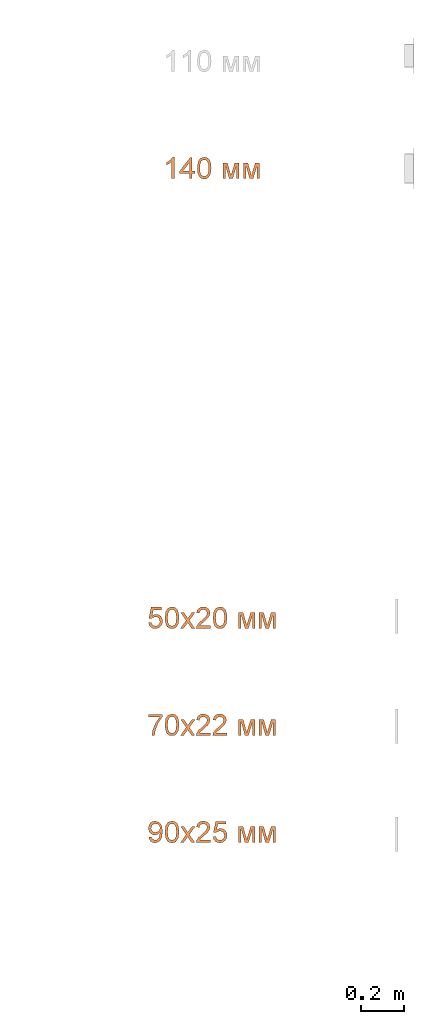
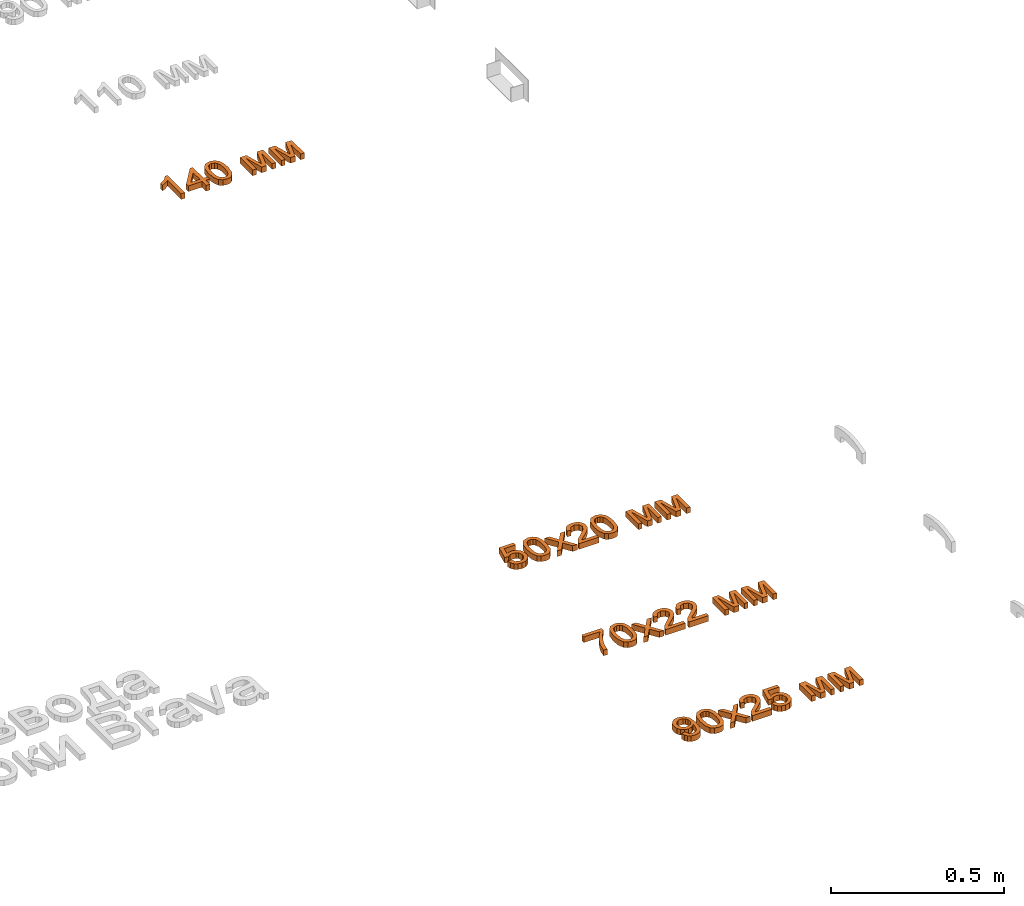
# One storey, part 33 of 87: 4 proxies.
"""IFC2X3 building model written with IfcOpenShell, lengths in millimetres."""

import ifcopenshell
import ifcopenshell.guid

model = None  # the IFC model being written
_history = None  # IfcOwnerHistory: only IFC2X3 demands one
_inside = {}  # id of a spatial element -> (the spatial element, [elements in it])
_under = {}  # id of a project, library or spatial element -> (it, [spatial elements below it])
_declared = {}  # id of a project -> (the project, [libraries it declares])
_typed = {}  # id of a type object -> (the type object, [elements of that type])
_made_of = {}  # id of a material, layer set ... -> (it, [elements and type objects made of it])


def new_model(schema):
    """Start an empty IFC model of exactly this schema.

    Asked for "IFC4X3", IfcOpenShell would pick the latest addendum, in which some entities
    have other attributes; the version numbers below select the first issue.
    IFC2X3 requires an IfcOwnerHistory on every rooted entity: one is made here for all.
    """
    global model, _history
    if schema == "IFC4X3":
        model = ifcopenshell.file(schema_version=(4, 3, 0, 0))
    else:
        model = ifcopenshell.file(schema=schema)
    _inside.clear()
    _under.clear()
    _declared.clear()
    _typed.clear()
    _made_of.clear()
    _history = None
    if model.schema == "IFC2X3":
        org = make("IfcOrganization", Name="unknown")
        user = make(
            "IfcPersonAndOrganization",
            ThePerson=make("IfcPerson", FamilyName="unknown"),
            TheOrganization=org,
        )
        app = make(
            "IfcApplication",
            ApplicationDeveloper=org,
            Version="unknown",
            ApplicationFullName="unknown",
            ApplicationIdentifier="unknown",
        )
        _history = make(
            "IfcOwnerHistory",
            OwningUser=user,
            OwningApplication=app,
            ChangeAction="ADDED",
            CreationDate=0,
        )
    return model


def make(cls, **values):
    """One entity of the class cls with the attributes given. An attribute that is None is left unset."""
    return model.create_entity(
        cls, **{name: value for name, value in values.items() if value is not None}
    )


def entity(cls, *values):
    """Any entity or typed value of the class cls, its attributes in the order of the schema. None: left unset."""
    e = model.create_entity(cls)
    for i, value in enumerate(values):
        if value is not None:
            e[i] = value
    return e


def rooted(cls, **values):
    """An entity with a GlobalId (a new one), such as an element, a storey or a relation."""
    return make(cls, GlobalId=ifcopenshell.guid.new(), OwnerHistory=_history, **values)


def si_unit(unit_type, name, prefix=None):
    """IfcSIUnit, for example si_unit("LENGTHUNIT", "METRE", prefix="MILLI")."""
    return make("IfcSIUnit", UnitType=unit_type, Prefix=prefix, Name=name)


def converted_unit(unit_type, name, factor, base, dimensions=None, offset=None):
    """IfcConversionBasedUnit, such as the inch: factor (a typed value) times the base unit."""
    return make(
        "IfcConversionBasedUnit"
        if offset is None
        else "IfcConversionBasedUnitWithOffset",
        ConversionOffset=offset,
        Dimensions=None
        if dimensions is None
        else entity("IfcDimensionalExponents", *dimensions),
        UnitType=unit_type,
        Name=name,
        ConversionFactor=make(
            "IfcMeasureWithUnit", ValueComponent=factor, UnitComponent=base
        ),
    )


def derived_unit(unit_type, elements):
    """IfcDerivedUnit: a product of units, each with its exponent."""
    return make(
        "IfcDerivedUnit",
        Elements=[
            make("IfcDerivedUnitElement", Unit=unit, Exponent=power)
            for unit, power in elements
        ],
        UnitType=unit_type,
    )


def assignment(units):
    """IfcUnitAssignment: the units of a project."""
    return None if units is None else make("IfcUnitAssignment", Units=units)


def point(xyz):
    """IfcCartesianPoint."""
    return None if xyz is None else make("IfcCartesianPoint", Coordinates=xyz)


def direction(xyz):
    """IfcDirection."""
    return None if xyz is None else make("IfcDirection", DirectionRatios=xyz)


def frame(location, z_axis=None, x_axis=None):
    """IfcAxis2Placement3D, a coordinate frame: its origin and axes. An axis left out is left unset."""
    return make(
        "IfcAxis2Placement3D",
        Location=point(location),
        Axis=direction(z_axis),
        RefDirection=direction(x_axis),
    )


def origin():
    """The frame at (0, 0, 0) with its axes left unset."""
    return frame((0.0, 0.0, 0.0))


def place(relative_to, where):
    """IfcLocalPlacement: puts the frame where relative to a parent placement (None: the world)."""
    return make(
        "IfcLocalPlacement", PlacementRelTo=relative_to, RelativePlacement=where
    )


def context(
    kind, dimensions, precision=None, world=None, true_north=None, identifier=None
):
    """IfcGeometricRepresentationContext, for example the 3D "Model" context."""
    return make(
        "IfcGeometricRepresentationContext",
        ContextIdentifier=identifier,
        ContextType=kind,
        CoordinateSpaceDimension=dimensions,
        Precision=precision,
        WorldCoordinateSystem=world,
        TrueNorth=true_north,
    )


def subcontext(parent, identifier, kind, view, scale=None):
    """IfcGeometricRepresentationSubContext, for example "Body" below "Model"."""
    return make(
        "IfcGeometricRepresentationSubContext",
        ContextIdentifier=identifier,
        ContextType=kind,
        ParentContext=parent,
        TargetScale=scale,
        TargetView=view,
    )


def project(units=None, contexts=None):
    """IfcProject with its units and contexts."""
    return rooted(
        "IfcProject",
        Name="project",
        RepresentationContexts=contexts,
        UnitsInContext=assignment(units),
    )


def spatial(cls, under=None, at=None, **own):
    """A site, building, storey or space (cls), placed at a placement, below another one or the project."""
    s = rooted(cls, ObjectPlacement=at, **own)
    if under is not None:
        _under.setdefault(under.id(), (under, []))[1].append(s)
    return s


def polyline(points):
    """IfcPolyline through the points."""
    return make("IfcPolyline", Points=[point(p) for p in points])


def outline(outer, holes=None, kind="AREA"):
    """IfcArbitraryClosedProfileDef: a profile drawn as a closed curve; with holes, ...WithVoids."""
    if holes is None:
        return make("IfcArbitraryClosedProfileDef", ProfileType=kind, OuterCurve=outer)
    return make(
        "IfcArbitraryProfileDefWithVoids",
        ProfileType=kind,
        OuterCurve=outer,
        InnerCurves=holes,
    )


def extrude(swept, where, along, depth):
    """IfcExtrudedAreaSolid: the profile swept, set in the frame where, extruded along a direction by depth."""
    return make(
        "IfcExtrudedAreaSolid",
        SweptArea=swept,
        Position=where,
        ExtrudedDirection=direction(along),
        Depth=depth,
    )


def shape(context_of_items, identifier, shape_type, items):
    """IfcShapeRepresentation: the items that make up one representation, for example the "Body"."""
    return make(
        "IfcShapeRepresentation",
        ContextOfItems=context_of_items,
        RepresentationIdentifier=identifier,
        RepresentationType=shape_type,
        Items=items,
    )


def made_of(thing, what):
    """Note that an element or type object is made of a material, layer set ...; save() writes the relation."""
    if what is not None:
        _made_of.setdefault(what.id(), (what, []))[1].append(thing)
    return thing


def element(
    cls,
    number,
    at=None,
    inside=None,
    cuts=None,
    type_object=None,
    material=None,
    context=None,
    identifier="Body",
    shape_type=None,
    held_by="IfcProductDefinitionShape",
    body=None,
    shapes=None,
    **own,
):
    """One element of the class cls, such as IfcWall. Its Tag is "e" and its number.

    at: its placement. inside: the storey or other place that contains it. cuts: it is an
    opening in that element (IfcRelVoidsElement). A single representation is given by context,
    identifier, shape_type and body (its items); several are given by shapes. held_by: the class
    of the entity that holds the representations. save() writes the other relations.
    """
    e = rooted(cls, Tag="e%d" % number, ObjectPlacement=at, **own)
    if body is not None:
        shapes = [shape(context, identifier, shape_type, body)]
    if shapes is not None:
        e.Representation = make(held_by, Representations=shapes)
    if inside is not None:
        _inside.setdefault(inside.id(), (inside, []))[1].append(e)
    if cuts is not None:
        rooted(
            "IfcRelVoidsElement", RelatingBuildingElement=cuts, RelatedOpeningElement=e
        )
    if type_object is not None:
        _typed.setdefault(type_object.id(), (type_object, []))[1].append(e)
    return made_of(e, material)


def aggregate(whole, parts):
    """IfcRelAggregates: a whole, such as a stair, and the parts it consists of."""
    return rooted("IfcRelAggregates", RelatingObject=whole, RelatedObjects=parts)


def save(model, path):
    """Write the relations noted so far, then the file.

    IfcRelAggregates (storeys below a building ...), IfcRelContainedInSpatialStructure (elements
    in a storey), IfcRelDefinesByType, IfcRelAssociatesMaterial and IfcRelDeclares: one each for
    every whole, place, type object, material and project.
    """
    for whole, parts in _under.values():
        aggregate(whole, parts)
    for where, things in _inside.values():
        rooted(
            "IfcRelContainedInSpatialStructure",
            RelatedElements=things,
            RelatingStructure=where,
        )
    for kind, things in _typed.values():
        rooted("IfcRelDefinesByType", RelatedObjects=things, RelatingType=kind)
    for what, things in _made_of.values():
        rooted("IfcRelAssociatesMaterial", RelatedObjects=things, RelatingMaterial=what)
    for by, libraries in _declared.values():
        rooted("IfcRelDeclares", RelatingContext=by, RelatedDefinitions=libraries)
    model.write(path)


model = new_model("IFC2X3")

# Units and contexts
model_context = context("Model", 3, precision=0.01, world=origin(), true_north=direction((6.12303176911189e-17, 1.0)))
body_context = subcontext(model_context, "Body", "Model", "MODEL_VIEW")
ifc_project = project(units=[si_unit("LENGTHUNIT", "METRE", prefix="MILLI"), si_unit("AREAUNIT", "SQUARE_METRE"), si_unit("VOLUMEUNIT", "CUBIC_METRE"), converted_unit("PLANEANGLEUNIT", "DEGREE", entity("IfcRatioMeasure", 0.0174532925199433), si_unit("PLANEANGLEUNIT", "RADIAN"), dimensions=[0, 0, 0, 0, 0, 0, 0]), si_unit("MASSUNIT", "GRAM", prefix="KILO"), derived_unit("MASSDENSITYUNIT", [(si_unit("MASSUNIT", "GRAM", prefix="KILO"), 1), (si_unit("LENGTHUNIT", "METRE"), -3)]), si_unit("TIMEUNIT", "SECOND"), si_unit("FREQUENCYUNIT", "HERTZ"), si_unit("THERMODYNAMICTEMPERATUREUNIT", "DEGREE_CELSIUS"), derived_unit("THERMALTRANSMITTANCEUNIT", [(si_unit("MASSUNIT", "GRAM", prefix="KILO"), 1), (si_unit("THERMODYNAMICTEMPERATUREUNIT", "KELVIN"), -1), (si_unit("TIMEUNIT", "SECOND"), -3)]), derived_unit("VOLUMETRICFLOWRATEUNIT", [(si_unit("LENGTHUNIT", "METRE"), 3), (si_unit("TIMEUNIT", "SECOND"), -1)]), si_unit("ELECTRICCURRENTUNIT", "AMPERE"), si_unit("ELECTRICVOLTAGEUNIT", "VOLT"), si_unit("POWERUNIT", "WATT"), si_unit("FORCEUNIT", "NEWTON", prefix="KILO"), si_unit("ILLUMINANCEUNIT", "LUX"), si_unit("LUMINOUSFLUXUNIT", "LUMEN"), si_unit("LUMINOUSINTENSITYUNIT", "CANDELA"), derived_unit("USERDEFINED", [(si_unit("MASSUNIT", "GRAM", prefix="KILO"), -1), (si_unit("LENGTHUNIT", "METRE"), -2), (si_unit("TIMEUNIT", "SECOND"), 3), (si_unit("LUMINOUSFLUXUNIT", "LUMEN"), 1)]), derived_unit("LINEARVELOCITYUNIT", [(si_unit("LENGTHUNIT", "METRE"), 1), (si_unit("TIMEUNIT", "SECOND"), -1)]), si_unit("PRESSUREUNIT", "PASCAL"), derived_unit("USERDEFINED", [(si_unit("LENGTHUNIT", "METRE"), -2), (si_unit("MASSUNIT", "GRAM", prefix="KILO"), 1), (si_unit("TIMEUNIT", "SECOND"), -2)])], contexts=[model_context])

# Site, building, storey
site_placement = place(None, origin())
site = spatial("IfcSite", under=ifc_project, at=site_placement, Name="Default", CompositionType="ELEMENT")
building_placement = place(site_placement, origin())
building = spatial("IfcBuilding", under=site, at=building_placement, Name="Наименование здания", CompositionType="ELEMENT")
storey_placement = place(building_placement, origin())
storey = spatial("IfcBuildingStorey", under=building, at=storey_placement, Name="Этаж 01", CompositionType="ELEMENT", Elevation=0.0)

# Proxies
proxy_1_placement = place(storey_placement, origin())
element("IfcBuildingElementProxy", 1, at=proxy_1_placement, inside=storey, Name="Текст модели:100 мм Arial", ObjectType="Текст модели:100 мм Arial", context=body_context, shape_type="SweptSolid", body=[
    extrude(outline(polyline([(-63.8793021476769, -16.9184842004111), (36.5770080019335, -16.9184842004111), (36.5770080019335, -8.82508030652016), (23.2106288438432, 2.34626961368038), (11.462930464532, 20.7526321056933), (-0.407395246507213, 20.7526321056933), (5.93243780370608, 7.53340574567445), (14.405986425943, -4.3614454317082), (-63.8793021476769, -4.3614454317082), (-63.8793021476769, -16.9184842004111)])), frame((11893.7741888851, -33062.5695836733, 0.0), z_axis=(0.0, 0.0, 1.0), x_axis=(0.0, 1.0, 0.0)), (0.0, 0.0, 1.0), 20.0),
    extrude(outline(polyline([(-1.14154897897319, -36.3868737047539), (11.4154897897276, -36.3868737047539), (11.4154897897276, -12.8424260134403), (23.9725285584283, -12.8424260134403), (23.9725285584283, -0.285387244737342), (11.4154897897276, -0.285387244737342), (11.4154897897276, 62.4998065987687), (1.99771071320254, 62.4998065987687), (-46.6608145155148, -0.285387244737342), (-46.6608145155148, -12.8424260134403), (-1.14154897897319, -12.8424260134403), (-1.14154897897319, -36.3868737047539)]), holes=[polyline([(-1.14154897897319, -0.285387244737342), (-31.20977071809, -0.285387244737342), (-1.14154897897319, 38.5139005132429), (-1.14154897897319, -0.285387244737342)])]), frame((11982.4675651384, -33090.0620121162, 0.0)), (0.0, 0.0, 1.0), 20.0),
    extrude(outline(polyline([(-7.02884310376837, -33.3490673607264), (17.5323805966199, -33.3490673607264), (35.1984171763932, -27.6137612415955), (43.3439841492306, -18.4876517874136), (47.0516941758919, -5.75150665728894), (46.7162020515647, 4.48638208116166), (43.4465778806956, 13.0955287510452), (27.94443056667, 25.6659118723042), (-0.314338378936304, 32.2325535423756), (-24.0296505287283, 32.3678288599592), (-39.4143020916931, 28.0260881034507), (-49.7293680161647, 18.9002174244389), (-54.443671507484, 4.63998875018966), (-50.8676582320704, -14.1301059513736), (-35.4058547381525, -26.7333390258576), (-7.02884310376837, -33.3490673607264)]), holes=[polyline([(-5.77428774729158, -20.8548320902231), (-25.0157644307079, -17.3562860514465), (-36.7257089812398, -11.5717922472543), (-41.0962588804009, -4.7759968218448), (-41.966921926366, 3.2146479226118), (-39.2244253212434, 11.2791292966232), (-32.8654063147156, 17.2229259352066), (-20.9698370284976, 20.2947501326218), (-1.61768958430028, 19.743314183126), (17.8514140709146, 16.2707701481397), (28.7803640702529, 10.714159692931), (33.5546988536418, 3.6181595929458), (34.5599568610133, -4.47255337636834), (31.9421230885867, -12.1923199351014), (25.847182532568, -18.1754808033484), (14.0250679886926, -21.4027476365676), (-5.77428774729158, -20.8548320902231)])]), frame((12051.3190401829, -33080.6257088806, 0.0), z_axis=(0.0, 0.0, 1.0), x_axis=(0.101851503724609, -0.994799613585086, 0.0)), (0.0, 0.0, 1.0), 20.0),
    extrude(outline(polyline([(-40.5839870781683, -38.4502715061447), (33.1886156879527, -38.4502715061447), (33.1886156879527, -25.893232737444), (-29.0570178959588, -25.893232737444), (33.1886156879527, -8.6273044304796), (33.1886156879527, 7.85380895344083), (-26.2120637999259, 25.9045521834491), (33.1886156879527, 25.9045521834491), (33.1886156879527, 38.4615909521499), (-40.5839870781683, 38.4615909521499), (-40.5839870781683, 17.7620973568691), (18.4733358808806, -0.190544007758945), (-40.5839870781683, -16.8433356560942), (-40.5839870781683, -38.4502715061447)])), frame((12175.1696424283, -33093.260270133, 0.0), z_axis=(0.0, 0.0, 1.0), x_axis=(0.0, -1.0, 0.0)), (0.0, 0.0, 1.0), 20.0),
    extrude(outline(polyline([(-40.5839870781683, -38.4502715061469), (33.1886156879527, -38.4502715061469), (33.1886156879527, -25.8932327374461), (-29.0570178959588, -25.8932327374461), (33.1886156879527, -8.62730443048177), (33.1886156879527, 7.85380895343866), (-26.2120637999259, 25.904552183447), (33.1886156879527, 25.904552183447), (33.1886156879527, 38.4615909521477), (-40.5839870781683, 38.4615909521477), (-40.5839870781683, 17.762097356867), (18.4733358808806, -0.19054400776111), (-40.5839870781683, -16.8433356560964), (-40.5839870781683, -38.4502715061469)])), frame((12270.9170630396, -33093.260270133, 0.0), z_axis=(0.0, 0.0, 1.0), x_axis=(0.0, -1.0, 0.0)), (0.0, 0.0, 1.0), 20.0),
])
proxy_2_placement = place(storey_placement, origin())
element("IfcBuildingElementProxy", 2, at=proxy_2_placement, inside=storey, Name="Текст модели:100 мм Arial", ObjectType="Текст модели:100 мм Arial", context=body_context, shape_type="SweptSolid", body=[
    extrude(outline(polyline([(3.81439562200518, -37.2548959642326), (15.7323946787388, -37.2548959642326), (26.1588137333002, -33.0579698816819), (34.2921694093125, -25.053720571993), (39.330978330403, -13.6317508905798), (40.2219288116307, 1.43409098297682), (34.3991305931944, 14.6815107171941), (25.5350217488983, 23.1481891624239), (13.9054384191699, 28.277097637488), (0.912111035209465, 29.4702838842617), (-10.715925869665, 25.7768606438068), (-19.7427074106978, 18.0989984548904), (-24.9322687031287, 7.33886785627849), (-25.5937300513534, -2.21124798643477), (-22.6370240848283, -12.2793380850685), (-47.9924930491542, 0.0204883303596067), (-38.097708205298, 37.232406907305), (-50.2330599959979, 40.4592412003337), (-62.7370428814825, -6.56524698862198), (-15.5021967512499, -30.4943712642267), (-10.7584434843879, -18.7623737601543), (-14.4216298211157, -10.4922324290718), (-13.6981616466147, 0.722667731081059), (-9.98738154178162, 9.35727561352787), (-4.32553373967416, 14.6878856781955), (11.4370636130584, 15.9400687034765), (19.7481682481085, 12.2772427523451), (25.4355726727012, 6.40632241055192), (28.0665145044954, -1.27212018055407), (27.2082313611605, -10.3575128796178), (19.6530635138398, -21.9256319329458), (5.52431094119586, -24.7161898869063), (3.81439562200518, -37.2548959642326)])), frame((11824.8547863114, -35186.5053317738, 0.0), z_axis=(0.0, 0.0, 1.0), x_axis=(0.256974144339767, -0.966418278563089, 0.0)), (0.0, 0.0, 1.0), 20.0),
    extrude(outline(polyline([(-7.02884310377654, -33.3490673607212), (17.5323805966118, -33.3490673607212), (35.198417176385, -27.6137612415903), (43.3439841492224, -18.4876517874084), (47.0516941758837, -5.75150665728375), (46.7162020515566, 4.48638208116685), (43.4465778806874, 13.0955287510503), (27.9444305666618, 25.6659118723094), (-0.314338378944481, 32.2325535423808), (-24.0296505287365, 32.3678288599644), (-39.4143020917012, 28.0260881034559), (-49.7293680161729, 18.900217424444), (-54.4436715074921, 4.63998875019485), (-50.8676582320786, -14.1301059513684), (-35.4058547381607, -26.7333390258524), (-7.02884310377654, -33.3490673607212)]), holes=[polyline([(-5.77428774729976, -20.8548320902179), (-25.0157644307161, -17.3562860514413), (-36.7257089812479, -11.5717922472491), (-41.0962588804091, -4.77599682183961), (-41.9669219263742, 3.21464792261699), (-39.2244253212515, 11.2791292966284), (-32.8654063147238, 17.2229259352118), (-20.9698370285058, 20.294750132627), (-1.61768958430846, 19.7433141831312), (17.8514140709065, 16.2707701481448), (28.7803640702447, 10.7141596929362), (33.5546988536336, 3.61815959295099), (34.5599568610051, -4.47255337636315), (31.9421230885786, -12.1923199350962), (25.8471825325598, -18.1754808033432), (14.0250679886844, -21.4027476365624), (-5.77428774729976, -20.8548320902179)])]), frame((11900.6345749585, -35180.6257088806, 0.0), z_axis=(0.0, 0.0, 1.0), x_axis=(0.101851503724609, -0.994799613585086, 0.0)), (0.0, 0.0, 1.0), 20.0),
    extrude(outline(polyline([(-34.530221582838, -38.4265006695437), (-19.422534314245, -38.4265006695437), (-0.341721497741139, -12.0616243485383), (2.47870713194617, -16.1328517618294), (17.8561745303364, -38.4265006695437), (32.9638617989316, -38.4265006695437), (7.40832586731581, -1.34399555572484), (33.944880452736, 35.3461020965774), (18.8371931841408, 35.3461020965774), (4.95577923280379, 16.1671874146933), (0.0261604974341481, 9.3491077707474), (-5.66374769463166, 17.68776632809), (-17.8529044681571, 35.3461020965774), (-32.9605917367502, 35.3461020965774), (-7.6993614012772, -1.34399555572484), (-34.530221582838, -38.4265006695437)])), frame((11973.4762318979, -35188.0223851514, 0.0)), (0.0, 0.0, 1.0), 20.0),
    extrude(outline(polyline([(-32.385878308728, -45.1669477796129), (-32.385878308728, -57.7239865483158), (33.5385752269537, -57.7239865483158), (32.1896745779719, -49.0664969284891), (24.5622545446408, -35.7369059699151), (8.84143061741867, -21.1810416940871), (-12.8390816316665, -0.260818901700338), (-18.2592096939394, 13.9639515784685), (-13.1456499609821, 25.4786580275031), (0.208466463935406, 30.1752848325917), (14.1266686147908, 25.5890226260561), (19.4119066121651, 12.9093565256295), (31.9689453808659, 14.4789863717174), (28.9247218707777, 26.6252235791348), (22.3426998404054, 35.4973110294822), (12.5662358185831, 40.9235704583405), (-0.0613136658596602, 42.7323236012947), (-12.7808336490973, 40.7212353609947), (-22.5389035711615, 34.6879706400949), (-28.746912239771, 25.6748617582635), (-30.8162484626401, 14.724241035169), (-28.5844310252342, 2.81712712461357), (-21.1654774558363, -9.49465698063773), (-3.1760478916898, -26.6992716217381), (11.2694517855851, -38.7780637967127), (16.9348345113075, -45.1669477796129), (-32.385878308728, -45.1669477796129)])), frame((12046.2571883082, -35168.7248992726, 0.0), z_axis=(0.0, 0.0, -1.0), x_axis=(-1.0, 0.0, 0.0)), (0.0, 0.0, -1.0), 20.0),
    extrude(outline(polyline([(-7.02884310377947, -33.3490673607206), (17.5323805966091, -33.3490673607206), (35.1984171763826, -27.6137612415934), (43.3439841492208, -18.4876517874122), (47.0516941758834, -5.75150665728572), (46.7162020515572, 4.48638208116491), (43.4465778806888, 13.0955287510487), (27.9444305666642, 25.6659118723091), (-0.314338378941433, 32.2325535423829), (-24.0296505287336, 32.3678288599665), (-39.4143020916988, 28.0260881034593), (-49.7293680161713, 18.9002174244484), (-54.4436715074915, 4.63998875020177), (-50.8676582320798, -14.130105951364), (-35.4058547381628, -26.7333390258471), (-7.02884310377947, -33.3490673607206)]), holes=[polyline([(-5.77428774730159, -20.8548320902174), (-25.0157644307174, -17.3562860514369), (-36.7257089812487, -11.5717922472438), (-41.0962588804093, -4.77599682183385), (-41.9669219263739, 3.21464792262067), (-39.2244253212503, 11.279129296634), (-32.865406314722, 17.2229259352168), (-20.969837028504, 20.2947501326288), (-1.6176895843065, 19.7433141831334), (17.8514140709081, 16.2707701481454), (28.7803640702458, 10.7141596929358), (33.5546988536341, 3.6181595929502), (34.5599568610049, -4.47255337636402), (31.9421230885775, -12.192319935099), (25.8471825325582, -18.1754808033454), (14.0250679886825, -21.4027476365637), (-5.77428774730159, -20.8548320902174)])]), frame((12125.091642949, -35180.6257088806, 0.0), z_axis=(0.0, 0.0, 1.0), x_axis=(0.101851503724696, -0.994799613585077, 0.0)), (0.0, 0.0, 1.0), 20.0),
    extrude(outline(polyline([(-40.5839870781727, -38.4502715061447), (33.1886156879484, -38.4502715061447), (33.1886156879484, -25.8932327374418), (-29.0570178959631, -25.8932327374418), (33.1886156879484, -8.6273044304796), (33.1886156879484, 7.85380895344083), (-26.2120637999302, 25.9045521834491), (33.1886156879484, 25.9045521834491), (33.1886156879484, 38.4615909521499), (-40.5839870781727, 38.4615909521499), (-40.5839870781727, 17.7620973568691), (18.4733358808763, -0.190544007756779), (-40.5839870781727, -16.8433356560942), (-40.5839870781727, -38.4502715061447)])), frame((12248.9422451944, -35193.260270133, 0.0), z_axis=(0.0, 0.0, 1.0), x_axis=(0.0, -1.0, 0.0)), (0.0, 0.0, 1.0), 20.0),
    extrude(outline(polyline([(-40.5839870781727, -38.4502715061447), (33.1886156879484, -38.4502715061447), (33.1886156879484, -25.893232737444), (-29.0570178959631, -25.893232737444), (33.1886156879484, -8.6273044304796), (33.1886156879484, 7.85380895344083), (-26.2120637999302, 25.9045521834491), (33.1886156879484, 25.9045521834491), (33.1886156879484, 38.4615909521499), (-40.5839870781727, 38.4615909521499), (-40.5839870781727, 17.7620973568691), (18.4733358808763, -0.190544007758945), (-40.5839870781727, -16.8433356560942), (-40.5839870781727, -38.4502715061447)])), frame((12344.6896658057, -35193.260270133, 0.0), z_axis=(0.0, 0.0, 1.0), x_axis=(0.0, -1.0, 0.0)), (0.0, 0.0, 1.0), 20.0),
])
proxy_3_placement = place(storey_placement, origin())
element("IfcBuildingElementProxy", 3, at=proxy_3_placement, inside=storey, Name="Текст модели:100 мм Arial", ObjectType="Текст модели:100 мм Arial", context=body_context, shape_type="SweptSolid", body=[
    extrude(outline(polyline([(-33.1249866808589, -28.4339338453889), (-33.1249866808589, -40.9909726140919), (32.7994668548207, -40.9909726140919), (32.7994668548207, -30.8374295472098), (14.0987987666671, -3.82262836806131), (-0.211810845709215, 30.5988636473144), (-4.87164945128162, 57.8957076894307), (-17.4286882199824, 57.8957076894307), (-12.4377558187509, 29.5687940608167), (1.25971713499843, -2.44920225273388), (20.2424280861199, -28.4339338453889), (-33.1249866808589, -28.4339338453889)])), frame((11822.9561616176, -35668.5531781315, 0.0), z_axis=(0.0, 0.0, -1.0), x_axis=(1.0, 0.0, 0.0)), (0.0, 0.0, -1.0), 20.0),
    extrude(outline(polyline([(-7.02884310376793, -33.3490673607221), (17.5323805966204, -33.3490673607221), (35.1984171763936, -27.6137612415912), (43.343984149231, -18.4876517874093), (47.0516941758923, -5.75150665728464), (46.7162020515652, 4.48638208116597), (43.446577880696, 13.0955287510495), (27.9444305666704, 25.6659118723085), (-0.314338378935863, 32.2325535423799), (-24.0296505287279, 32.3678288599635), (-39.4143020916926, 28.026088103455), (-49.7293680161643, 18.9002174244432), (-54.4436715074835, 4.63998875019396), (-50.8676582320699, -14.1301059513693), (-35.4058547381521, -26.7333390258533), (-7.02884310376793, -33.3490673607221)]), holes=[polyline([(-5.77428774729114, -20.8548320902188), (-25.0157644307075, -17.3562860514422), (-36.7257089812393, -11.57179224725), (-41.0962588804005, -4.77599682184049), (-41.9669219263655, 3.21464792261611), (-39.2244253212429, 11.2791292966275), (-32.8654063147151, 17.2229259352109), (-20.9698370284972, 20.2947501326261), (-1.61768958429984, 19.7433141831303), (17.8514140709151, 16.270770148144), (28.7803640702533, 10.7141596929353), (33.5546988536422, 3.61815959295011), (34.5599568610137, -4.47255337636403), (31.9421230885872, -12.1923199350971), (25.8471825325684, -18.1754808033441), (14.025067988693, -21.4027476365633), (-5.77428774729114, -20.8548320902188)])]), frame((11900.6345749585, -35680.6257088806, 0.0), z_axis=(0.0, 0.0, 1.0), x_axis=(0.101851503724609, -0.994799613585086, 0.0)), (0.0, 0.0, 1.0), 20.0),
    extrude(outline(polyline([(-34.530221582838, -38.4265006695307), (-19.422534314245, -38.4265006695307), (-0.341721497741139, -12.0616243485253), (2.47870713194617, -16.1328517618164), (17.8561745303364, -38.4265006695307), (32.9638617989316, -38.4265006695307), (7.40832586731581, -1.34399555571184), (33.944880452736, 35.3461020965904), (18.8371931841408, 35.3461020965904), (4.95577923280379, 16.1671874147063), (0.0261604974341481, 9.3491077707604), (-5.66374769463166, 17.687766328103), (-17.8529044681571, 35.3461020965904), (-32.9605917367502, 35.3461020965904), (-7.6993614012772, -1.34399555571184), (-34.530221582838, -38.4265006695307)])), frame((11973.4762318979, -35688.0223851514, 0.0)), (0.0, 0.0, 1.0), 20.0),
    extrude(outline(polyline([(-32.385878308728, -45.1669477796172), (-32.385878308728, -57.7239865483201), (33.5385752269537, -57.7239865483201), (32.1896745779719, -49.0664969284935), (24.5622545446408, -35.7369059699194), (8.84143061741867, -21.1810416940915), (-12.8390816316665, -0.26081890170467), (-18.2592096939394, 13.9639515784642), (-13.1456499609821, 25.4786580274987), (0.208466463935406, 30.1752848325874), (14.1266686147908, 25.5890226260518), (19.4119066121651, 12.9093565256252), (31.9689453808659, 14.4789863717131), (28.9247218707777, 26.6252235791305), (22.3426998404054, 35.4973110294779), (12.5662358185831, 40.9235704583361), (-0.0613136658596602, 42.7323236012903), (-12.7808336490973, 40.7212353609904), (-22.5389035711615, 34.6879706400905), (-28.746912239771, 25.6748617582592), (-30.8162484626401, 14.7242410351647), (-28.5844310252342, 2.81712712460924), (-21.1654774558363, -9.49465698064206), (-3.1760478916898, -26.6992716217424), (11.2694517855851, -38.7780637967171), (16.9348345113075, -45.1669477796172), (-32.385878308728, -45.1669477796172)])), frame((12046.2571883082, -35668.7248992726, 0.0), z_axis=(0.0, 0.0, -1.0), x_axis=(-1.0, 0.0, 0.0)), (0.0, 0.0, -1.0), 20.0),
    extrude(outline(polyline([(-32.385878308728, -45.1669477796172), (-32.385878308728, -57.7239865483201), (33.5385752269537, -57.7239865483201), (32.1896745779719, -49.0664969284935), (24.5622545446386, -35.7369059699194), (8.84143061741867, -21.1810416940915), (-12.8390816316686, -0.26081890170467), (-18.2592096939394, 13.9639515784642), (-13.1456499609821, 25.4786580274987), (0.208466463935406, 30.1752848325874), (14.1266686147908, 25.5890226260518), (19.4119066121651, 12.9093565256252), (31.9689453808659, 14.4789863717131), (28.9247218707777, 26.6252235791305), (22.3426998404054, 35.4973110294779), (12.5662358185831, 40.9235704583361), (-0.0613136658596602, 42.7323236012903), (-12.7808336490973, 40.7212353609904), (-22.5389035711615, 34.6879706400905), (-28.746912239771, 25.6748617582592), (-30.8162484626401, 14.7242410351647), (-28.5844310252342, 2.81712712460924), (-21.1654774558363, -9.49465698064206), (-3.1760478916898, -26.6992716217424), (11.2694517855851, -38.7780637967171), (16.9348345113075, -45.1669477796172), (-32.385878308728, -45.1669477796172)])), frame((12123.1690507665, -35668.7248992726, 0.0), z_axis=(0.0, 0.0, -1.0), x_axis=(-1.0, 0.0, 0.0)), (0.0, 0.0, -1.0), 20.0),
    extrude(outline(polyline([(-40.583987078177, -38.4502715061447), (33.1886156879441, -38.4502715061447), (33.1886156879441, -25.8932327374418), (-29.0570178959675, -25.8932327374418), (33.1886156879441, -8.6273044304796), (33.1886156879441, 7.85380895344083), (-26.2120637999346, 25.9045521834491), (33.1886156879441, 25.9045521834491), (33.1886156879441, 38.4615909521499), (-40.583987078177, 38.4615909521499), (-40.583987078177, 17.7620973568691), (18.4733358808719, -0.190544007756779), (-40.583987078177, -16.8433356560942), (-40.583987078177, -38.4502715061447)])), frame((12248.9422451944, -35693.260270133, 0.0), z_axis=(0.0, 0.0, 1.0), x_axis=(0.0, -1.0, 0.0)), (0.0, 0.0, 1.0), 20.0),
    extrude(outline(polyline([(-40.583987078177, -38.4502715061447), (33.1886156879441, -38.4502715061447), (33.1886156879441, -25.893232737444), (-29.0570178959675, -25.893232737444), (33.1886156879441, -8.6273044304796), (33.1886156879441, 7.85380895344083), (-26.2120637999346, 25.9045521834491), (33.1886156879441, 25.9045521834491), (33.1886156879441, 38.4615909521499), (-40.583987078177, 38.4615909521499), (-40.583987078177, 17.7620973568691), (18.4733358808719, -0.190544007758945), (-40.583987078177, -16.8433356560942), (-40.583987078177, -38.4502715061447)])), frame((12344.6896658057, -35693.260270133, 0.0), z_axis=(0.0, 0.0, 1.0), x_axis=(0.0, -1.0, 0.0)), (0.0, 0.0, 1.0), 20.0),
])
proxy_4_placement = place(storey_placement, origin())
element("IfcBuildingElementProxy", 4, at=proxy_4_placement, inside=storey, Name="Текст модели:100 мм Arial", ObjectType="Текст модели:100 мм Arial", context=body_context, shape_type="SweptSolid", body=[
    extrude(outline(polyline([(5.58296908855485, -31.7859506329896), (17.2387167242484, -31.7859506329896), (26.9216142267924, -28.1739915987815), (34.2072820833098, -21.2554963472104), (38.6713407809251, -11.3358876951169), (39.9245387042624, -0.903731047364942), (37.9450282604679, 8.92661895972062), (32.779395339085, 17.8190246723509), (24.4742258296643, 25.4373484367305), (-3.90517077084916, 37.3659164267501), (-32.1440557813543, 40.5619140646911), (-49.7769073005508, 32.5319597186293), (-59.4683269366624, 16.603299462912), (-60.4499889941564, 4.02951589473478), (-56.4016296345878, -7.53444362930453), (-47.8362588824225, -16.8026666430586), (-35.2668867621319, -22.4892406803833), (-21.9841856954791, -23.8222776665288), (-10.3310965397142, -20.2832716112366), (-1.40106329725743, -12.8047998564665), (3.712470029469, -2.31943974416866), (3.73902096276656, 11.928190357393), (-2.8599761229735, 24.0883984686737), (-0.471643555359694, 23.526023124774), (13.1334133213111, 18.0099957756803), (22.6158894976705, 11.2224941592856), (27.0079821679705, 2.91452909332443), (26.6924060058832, -7.52395807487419), (20.3410079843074, -16.8945474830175), (7.30988926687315, -19.2495752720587), (5.58296908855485, -31.7859506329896)]), holes=[polyline([(-21.7672208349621, 29.1433710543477), (-13.9803799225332, 25.5922442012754), (-8.91107638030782, 19.829137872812), (-7.4746457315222, 4.45415101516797), (-10.9717321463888, -3.43916536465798), (-16.5473789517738, -8.73312215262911), (-23.5758136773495, -11.1761402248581), (-31.4312638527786, -10.5166404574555), (-39.411960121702, -6.85973803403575), (-44.9206699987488, -0.817312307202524), (-47.5297596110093, 6.83624740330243), (-46.8115950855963, 15.3265517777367), (-43.3781823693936, 22.7799280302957), (-37.7148363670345, 27.7965691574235), (-30.338776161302, 30.0324064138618), (-21.7672208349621, 29.1433710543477)])]), frame((11820.6662262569, -36187.7314518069, 0.0), z_axis=(0.0, 0.0, 1.0), x_axis=(0.258284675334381, -0.966068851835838, 0.0)), (0.0, 0.0, 1.0), 20.0),
    extrude(outline(polyline([(-7.02884310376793, -33.3490673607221), (17.5323805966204, -33.3490673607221), (35.1984171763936, -27.6137612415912), (43.343984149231, -18.4876517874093), (47.0516941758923, -5.75150665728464), (46.7162020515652, 4.48638208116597), (43.446577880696, 13.0955287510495), (27.9444305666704, 25.6659118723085), (-0.314338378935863, 32.2325535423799), (-24.0296505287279, 32.3678288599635), (-39.4143020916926, 28.026088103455), (-49.7293680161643, 18.9002174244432), (-54.4436715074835, 4.63998875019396), (-50.8676582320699, -14.1301059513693), (-35.4058547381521, -26.7333390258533), (-7.02884310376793, -33.3490673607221)]), holes=[polyline([(-5.77428774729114, -20.8548320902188), (-25.0157644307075, -17.3562860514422), (-36.7257089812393, -11.57179224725), (-41.0962588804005, -4.77599682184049), (-41.9669219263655, 3.21464792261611), (-39.2244253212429, 11.2791292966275), (-32.8654063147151, 17.2229259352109), (-20.9698370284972, 20.2947501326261), (-1.61768958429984, 19.7433141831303), (17.8514140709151, 16.270770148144), (28.7803640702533, 10.7141596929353), (33.5546988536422, 3.61815959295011), (34.5599568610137, -4.47255337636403), (31.9421230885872, -12.1923199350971), (25.8471825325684, -18.1754808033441), (14.025067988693, -21.4027476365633), (-5.77428774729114, -20.8548320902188)])]), frame((11900.6345749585, -36180.6257088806, 0.0), z_axis=(0.0, 0.0, 1.0), x_axis=(0.101851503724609, -0.994799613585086, 0.0)), (0.0, 0.0, 1.0), 20.0),
    extrude(outline(polyline([(-34.530221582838, -38.426500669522), (-19.422534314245, -38.426500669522), (-0.341721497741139, -12.0616243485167), (2.47870713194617, -16.1328517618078), (17.8561745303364, -38.426500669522), (32.9638617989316, -38.426500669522), (7.40832586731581, -1.34399555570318), (33.944880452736, 35.3461020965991), (18.8371931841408, 35.3461020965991), (4.95577923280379, 16.167187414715), (0.0261604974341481, 9.34910777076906), (-5.66374769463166, 17.6877663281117), (-17.8529044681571, 35.3461020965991), (-32.9605917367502, 35.3461020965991), (-7.6993614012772, -1.34399555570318), (-34.530221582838, -38.426500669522)])), frame((11973.4762318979, -36188.0223851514, 0.0)), (0.0, 0.0, 1.0), 20.0),
    extrude(outline(polyline([(-32.385878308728, -45.1669477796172), (-32.385878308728, -57.7239865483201), (33.5385752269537, -57.7239865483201), (32.1896745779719, -49.0664969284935), (24.5622545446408, -35.7369059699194), (8.84143061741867, -21.1810416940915), (-12.8390816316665, -0.26081890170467), (-18.2592096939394, 13.9639515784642), (-13.1456499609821, 25.4786580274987), (0.208466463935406, 30.1752848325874), (14.1266686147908, 25.5890226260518), (19.4119066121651, 12.9093565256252), (31.9689453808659, 14.4789863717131), (28.9247218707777, 26.6252235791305), (22.3426998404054, 35.4973110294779), (12.5662358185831, 40.9235704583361), (-0.0613136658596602, 42.7323236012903), (-12.7808336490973, 40.7212353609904), (-22.5389035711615, 34.6879706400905), (-28.746912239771, 25.6748617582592), (-30.8162484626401, 14.7242410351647), (-28.5844310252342, 2.81712712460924), (-21.1654774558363, -9.49465698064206), (-3.1760478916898, -26.6992716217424), (11.2694517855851, -38.7780637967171), (16.9348345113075, -45.1669477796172), (-32.385878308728, -45.1669477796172)])), frame((12046.2571883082, -36168.7248992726, 0.0), z_axis=(0.0, 0.0, -1.0), x_axis=(-1.0, 0.0, 0.0)), (0.0, 0.0, -1.0), 20.0),
    extrude(outline(polyline([(3.81439562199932, -37.2548959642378), (15.732394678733, -37.2548959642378), (26.1588137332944, -33.057969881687), (34.2921694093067, -25.0537205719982), (39.3309783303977, -13.6317508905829), (40.2219288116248, 1.43409098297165), (34.3991305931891, 14.681510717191), (25.5350217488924, 23.1481891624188), (13.9054384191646, 28.2770976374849), (0.912111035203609, 29.4702838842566), (-10.7159258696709, 25.7768606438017), (-19.7427074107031, 18.0989984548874), (-24.9322687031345, 7.33886785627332), (-25.5937300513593, -2.21124798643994), (-22.6370240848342, -12.2793380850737), (-47.99249304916, 0.0204883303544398), (-38.0977082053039, 37.2324069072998), (-50.2330599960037, 40.4592412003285), (-62.7370428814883, -6.56524698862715), (-15.5021967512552, -30.4943712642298), (-10.7584434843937, -18.7623737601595), (-14.421629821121, -10.4922324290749), (-13.69816164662, 0.722667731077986), (-9.98738154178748, 9.3572756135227), (-4.32553373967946, 14.6878856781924), (11.4370636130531, 15.9400687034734), (19.7481682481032, 12.277242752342), (25.4355726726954, 6.40632241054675), (28.0665145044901, -1.27212018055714), (27.2082313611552, -10.3575128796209), (19.653063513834, -21.9256319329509), (5.52431094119, -24.7161898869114), (3.81439562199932, -37.2548959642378)])), frame((12126.2237167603, -36186.5053317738, 0.0), z_axis=(0.0, 0.0, 1.0), x_axis=(0.256974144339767, -0.966418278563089, 0.0)), (0.0, 0.0, 1.0), 20.0),
    extrude(outline(polyline([(-40.583987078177, -38.4502715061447), (33.1886156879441, -38.4502715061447), (33.1886156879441, -25.8932327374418), (-29.0570178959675, -25.8932327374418), (33.1886156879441, -8.6273044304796), (33.1886156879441, 7.85380895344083), (-26.2120637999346, 25.9045521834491), (33.1886156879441, 25.9045521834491), (33.1886156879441, 38.4615909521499), (-40.583987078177, 38.4615909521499), (-40.583987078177, 17.7620973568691), (18.4733358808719, -0.190544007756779), (-40.583987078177, -16.8433356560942), (-40.583987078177, -38.4502715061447)])), frame((12248.9422451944, -36193.260270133, 0.0), z_axis=(0.0, 0.0, 1.0), x_axis=(0.0, -1.0, 0.0)), (0.0, 0.0, 1.0), 20.0),
    extrude(outline(polyline([(-40.583987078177, -38.4502715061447), (33.1886156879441, -38.4502715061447), (33.1886156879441, -25.893232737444), (-29.0570178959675, -25.893232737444), (33.1886156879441, -8.6273044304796), (33.1886156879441, 7.85380895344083), (-26.2120637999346, 25.9045521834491), (33.1886156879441, 25.9045521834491), (33.1886156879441, 38.4615909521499), (-40.583987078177, 38.4615909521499), (-40.583987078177, 17.7620973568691), (18.4733358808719, -0.190544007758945), (-40.583987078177, -16.8433356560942), (-40.583987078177, -38.4502715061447)])), frame((12344.6896658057, -36193.260270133, 0.0), z_axis=(0.0, 0.0, 1.0), x_axis=(0.0, -1.0, 0.0)), (0.0, 0.0, 1.0), 20.0),
])

save(model, "model.ifc")
